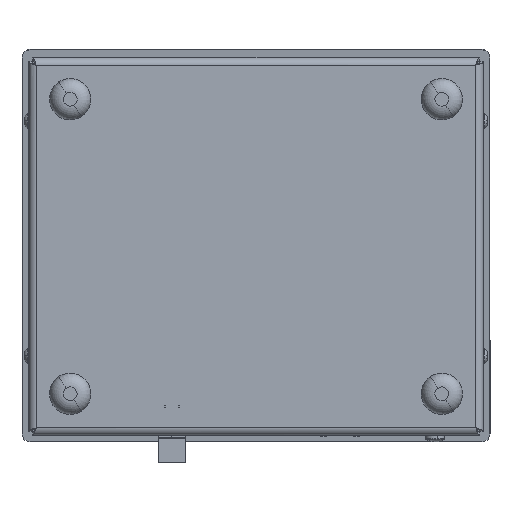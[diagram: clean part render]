
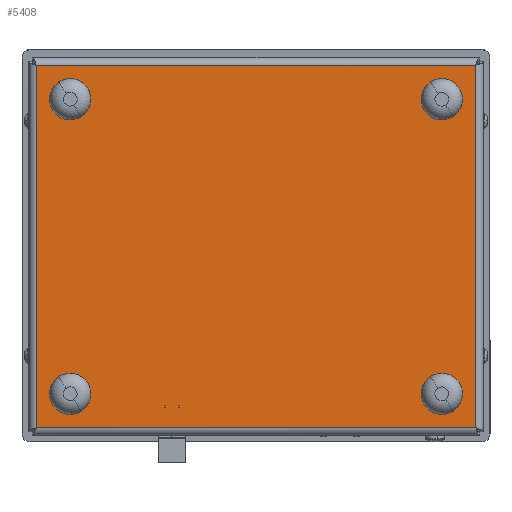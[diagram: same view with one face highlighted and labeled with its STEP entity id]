
A CAD part, front view. The second image highlights one B-rep face of the part: STEP entity #5408.
In plain terms, the highlighted planar face has unit normal (0, -1, 0).
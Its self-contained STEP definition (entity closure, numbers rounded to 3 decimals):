
#1221 = DIRECTION ( 'NONE',  ( 0., 0., 1. ) ) ;
#1234 = EDGE_CURVE ( 'NONE', #44057, #41720, #42424, .T. ) ;
#1800 = CARTESIAN_POINT ( 'NONE',  ( -81.123, -1.2, -65.8 ) ) ;
#1985 = LINE ( 'NONE', #27393, #63038 ) ;
#5408 = ADVANCED_FACE ( 'NONE', ( #19014 ), #72173, .F. ) ;
#10268 = CARTESIAN_POINT ( 'NONE',  ( 79.8, -1.2, 65.8 ) ) ;
#11741 = VECTOR ( 'NONE', #1221, 1000. ) ;
#12830 = VECTOR ( 'NONE', #36449, 1000. ) ;
#17757 = EDGE_CURVE ( 'NONE', #41720, #84412, #44341, .T. ) ;
#19014 = FACE_OUTER_BOUND ( 'NONE', #36897, .T. ) ;
#20010 = ORIENTED_EDGE ( 'NONE', *, *, #54959, .T. ) ;
#21220 = VECTOR ( 'NONE', #28946, 1000. ) ;
#22169 = AXIS2_PLACEMENT_3D ( 'NONE', #46174, #78343, #25551 ) ;
#25551 = DIRECTION ( 'NONE',  ( 0., 0., 1. ) ) ;
#27393 = CARTESIAN_POINT ( 'NONE',  ( -79.8, -1.2, 67.123 ) ) ;
#28946 = DIRECTION ( 'NONE',  ( 1., 0., 0. ) ) ;
#31021 = ORIENTED_EDGE ( 'NONE', *, *, #17757, .T. ) ;
#35214 = CARTESIAN_POINT ( 'NONE',  ( 79.8, -1.2, -65.8 ) ) ;
#36449 = DIRECTION ( 'NONE',  ( -1., 0., 0. ) ) ;
#36897 = EDGE_LOOP ( 'NONE', ( #20010, #38683, #31021, #60950 ) ) ;
#38683 = ORIENTED_EDGE ( 'NONE', *, *, #1234, .T. ) ;
#41720 = VERTEX_POINT ( 'NONE', #10268 ) ;
#42424 = LINE ( 'NONE', #62660, #11741 ) ;
#44057 = VERTEX_POINT ( 'NONE', #35214 ) ;
#44341 = LINE ( 'NONE', #63273, #12830 ) ;
#46174 = CARTESIAN_POINT ( 'NONE',  ( 0., -1.2, 0. ) ) ;
#54959 = EDGE_CURVE ( 'NONE', #82851, #44057, #62782, .T. ) ;
#57265 = CARTESIAN_POINT ( 'NONE',  ( -79.8, -1.2, -65.8 ) ) ;
#60950 = ORIENTED_EDGE ( 'NONE', *, *, #68506, .T. ) ;
#62660 = CARTESIAN_POINT ( 'NONE',  ( 79.8, -1.2, -67.123 ) ) ;
#62782 = LINE ( 'NONE', #1800, #21220 ) ;
#63038 = VECTOR ( 'NONE', #74482, 1000. ) ;
#63273 = CARTESIAN_POINT ( 'NONE',  ( 81.123, -1.2, 65.8 ) ) ;
#68506 = EDGE_CURVE ( 'NONE', #84412, #82851, #1985, .T. ) ;
#72173 = PLANE ( 'NONE',  #22169 ) ;
#74482 = DIRECTION ( 'NONE',  ( 0., 0., -1. ) ) ;
#78343 = DIRECTION ( 'NONE',  ( 0., 1., 0. ) ) ;
#82851 = VERTEX_POINT ( 'NONE', #57265 ) ;
#84412 = VERTEX_POINT ( 'NONE', #85863 ) ;
#85863 = CARTESIAN_POINT ( 'NONE',  ( -79.8, -1.2, 65.8 ) ) ;
